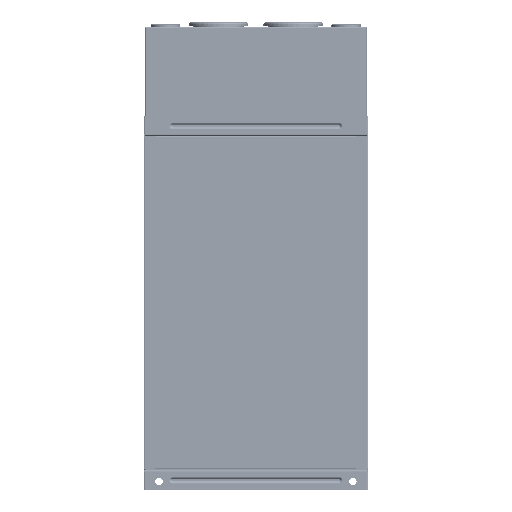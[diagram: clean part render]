
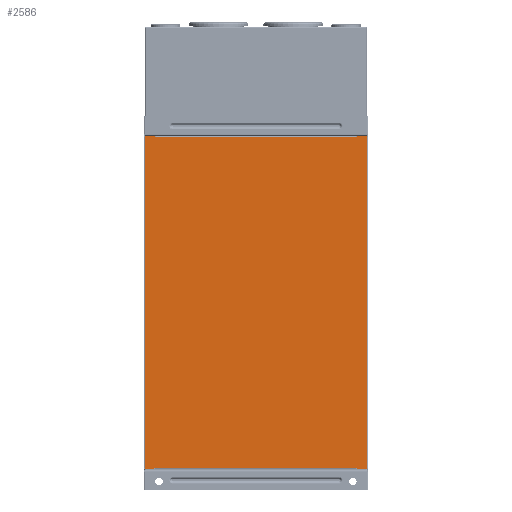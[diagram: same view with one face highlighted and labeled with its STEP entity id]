
A CAD part, front view. The second image highlights one B-rep face of the part: STEP entity #2586.
In plain terms, the highlighted planar face has unit normal (0, -1, 0).
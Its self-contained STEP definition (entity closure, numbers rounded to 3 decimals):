
#815=DIRECTION('',(0.,0.,-1.));
#816=VECTOR('',#815,1.6);
#817=CARTESIAN_POINT('',(-163.4,0.,0.));
#818=LINE('',#817,#816);
#823=DIRECTION('',(0.,0.,-1.));
#824=VECTOR('',#823,1.6);
#825=CARTESIAN_POINT('',(-149.4,0.,-488.8));
#826=LINE('',#825,#824);
#827=DIRECTION('',(-1.,0.,0.));
#828=VECTOR('',#827,14.);
#829=CARTESIAN_POINT('',(-149.4,0.,-490.4));
#830=LINE('',#829,#828);
#831=DIRECTION('',(1.,0.,0.));
#832=VECTOR('',#831,1.6);
#833=CARTESIAN_POINT('',(-148.3,0.,-1.6));
#834=LINE('',#833,#832);
#835=DIRECTION('',(1.,0.,0.));
#836=VECTOR('',#835,1.6);
#837=CARTESIAN_POINT('',(146.7,0.,-1.6));
#838=LINE('',#837,#836);
#839=DIRECTION('',(0.,0.,1.));
#840=VECTOR('',#839,1.6);
#841=CARTESIAN_POINT('',(148.3,0.,-1.6));
#842=LINE('',#841,#840);
#843=DIRECTION('',(0.,0.,-1.));
#844=VECTOR('',#843,1.6);
#845=CARTESIAN_POINT('',(163.4,0.,-488.8));
#846=LINE('',#845,#844);
#847=DIRECTION('',(-1.,0.,0.));
#848=VECTOR('',#847,14.);
#849=CARTESIAN_POINT('',(163.4,0.,-490.4));
#850=LINE('',#849,#848);
#851=DIRECTION('',(-1.,0.,0.));
#852=VECTOR('',#851,1.6);
#853=CARTESIAN_POINT('',(149.4,0.,-488.8));
#854=LINE('',#853,#852);
#855=DIRECTION('',(-1.,0.,0.));
#856=VECTOR('',#855,1.6);
#857=CARTESIAN_POINT('',(-147.8,0.,-488.8));
#858=LINE('',#857,#856);
#916=DIRECTION('',(1.,0.,0.));
#917=VECTOR('',#916,295.6);
#918=CARTESIAN_POINT('',(-147.8,0.,-488.8));
#919=LINE('',#918,#917);
#1013=DIRECTION('',(0.,0.,-1.));
#1014=VECTOR('',#1013,1.6);
#1015=CARTESIAN_POINT('',(149.4,0.,-488.8));
#1016=LINE('',#1015,#1014);
#1042=DIRECTION('',(0.,0.,1.));
#1043=VECTOR('',#1042,487.2);
#1044=CARTESIAN_POINT('',(163.4,0.,-488.8));
#1045=LINE('',#1044,#1043);
#1475=DIRECTION('',(0.,0.,1.));
#1476=VECTOR('',#1475,1.6);
#1477=CARTESIAN_POINT('',(163.4,0.,-1.6));
#1478=LINE('',#1477,#1476);
#1491=DIRECTION('',(-1.,0.,0.));
#1492=VECTOR('',#1491,15.1);
#1493=CARTESIAN_POINT('',(163.4,0.,0.));
#1494=LINE('',#1493,#1492);
#1520=DIRECTION('',(-1.,0.,0.));
#1521=VECTOR('',#1520,293.4);
#1522=CARTESIAN_POINT('',(146.7,0.,-1.6));
#1523=LINE('',#1522,#1521);
#1657=DIRECTION('',(0.,0.,1.));
#1658=VECTOR('',#1657,1.6);
#1659=CARTESIAN_POINT('',(-148.3,0.,-1.6));
#1660=LINE('',#1659,#1658);
#1665=DIRECTION('',(-1.,0.,0.));
#1666=VECTOR('',#1665,15.1);
#1667=CARTESIAN_POINT('',(-148.3,0.,0.));
#1668=LINE('',#1667,#1666);
#1978=DIRECTION('',(0.,0.,-1.));
#1979=VECTOR('',#1978,487.2);
#1980=CARTESIAN_POINT('',(-163.4,0.,-1.6));
#1981=LINE('',#1980,#1979);
#1982=DIRECTION('',(0.,0.,-1.));
#1983=VECTOR('',#1982,1.6);
#1984=CARTESIAN_POINT('',(-163.4,0.,-488.8));
#1985=LINE('',#1984,#1983);
#2062=CARTESIAN_POINT('',(-163.4,0.,-1.6));
#2063=VERTEX_POINT('',#2062);
#2064=CARTESIAN_POINT('',(-163.4,0.,0.));
#2065=VERTEX_POINT('',#2064);
#2068=CARTESIAN_POINT('',(-149.4,0.,-488.8));
#2069=CARTESIAN_POINT('',(-149.4,0.,-490.4));
#2070=VERTEX_POINT('',#2068);
#2071=VERTEX_POINT('',#2069);
#2072=CARTESIAN_POINT('',(-163.4,0.,-490.4));
#2073=VERTEX_POINT('',#2072);
#2074=CARTESIAN_POINT('',(-163.4,0.,-488.8));
#2075=VERTEX_POINT('',#2074);
#2076=CARTESIAN_POINT('',(-148.3,0.,0.));
#2077=VERTEX_POINT('',#2076);
#2078=CARTESIAN_POINT('',(-148.3,0.,-1.6));
#2079=VERTEX_POINT('',#2078);
#2080=CARTESIAN_POINT('',(-146.7,0.,-1.6));
#2081=VERTEX_POINT('',#2080);
#2082=CARTESIAN_POINT('',(146.7,0.,-1.6));
#2083=VERTEX_POINT('',#2082);
#2084=CARTESIAN_POINT('',(148.3,0.,-1.6));
#2085=VERTEX_POINT('',#2084);
#2086=CARTESIAN_POINT('',(148.3,0.,0.));
#2087=VERTEX_POINT('',#2086);
#2088=CARTESIAN_POINT('',(163.4,0.,0.));
#2089=VERTEX_POINT('',#2088);
#2090=CARTESIAN_POINT('',(163.4,0.,-1.6));
#2091=VERTEX_POINT('',#2090);
#2092=CARTESIAN_POINT('',(163.4,0.,-488.8));
#2093=VERTEX_POINT('',#2092);
#2094=CARTESIAN_POINT('',(163.4,0.,-490.4));
#2095=VERTEX_POINT('',#2094);
#2096=CARTESIAN_POINT('',(149.4,0.,-490.4));
#2097=VERTEX_POINT('',#2096);
#2098=CARTESIAN_POINT('',(149.4,0.,-488.8));
#2099=VERTEX_POINT('',#2098);
#2100=CARTESIAN_POINT('',(147.8,0.,-488.8));
#2101=VERTEX_POINT('',#2100);
#2102=CARTESIAN_POINT('',(-147.8,0.,-488.8));
#2103=VERTEX_POINT('',#2102);
#2540=CARTESIAN_POINT('',(-163.4,0.,0.));
#2541=DIRECTION('',(0.,-1.,0.));
#2542=DIRECTION('',(1.,0.,0.));
#2543=AXIS2_PLACEMENT_3D('',#2540,#2541,#2542);
#2544=PLANE('',#2543);
#2546=ORIENTED_EDGE('',*,*,#2545,.T.);
#2548=ORIENTED_EDGE('',*,*,#2547,.T.);
#2550=ORIENTED_EDGE('',*,*,#2549,.F.);
#2552=ORIENTED_EDGE('',*,*,#2551,.F.);
#2553=ORIENTED_EDGE('',*,*,#2530,.F.);
#2555=ORIENTED_EDGE('',*,*,#2554,.F.);
#2557=ORIENTED_EDGE('',*,*,#2556,.F.);
#2559=ORIENTED_EDGE('',*,*,#2558,.T.);
#2561=ORIENTED_EDGE('',*,*,#2560,.F.);
#2563=ORIENTED_EDGE('',*,*,#2562,.T.);
#2565=ORIENTED_EDGE('',*,*,#2564,.T.);
#2567=ORIENTED_EDGE('',*,*,#2566,.F.);
#2569=ORIENTED_EDGE('',*,*,#2568,.F.);
#2571=ORIENTED_EDGE('',*,*,#2570,.F.);
#2573=ORIENTED_EDGE('',*,*,#2572,.T.);
#2575=ORIENTED_EDGE('',*,*,#2574,.T.);
#2577=ORIENTED_EDGE('',*,*,#2576,.F.);
#2579=ORIENTED_EDGE('',*,*,#2578,.T.);
#2581=ORIENTED_EDGE('',*,*,#2580,.F.);
#2583=ORIENTED_EDGE('',*,*,#2582,.T.);
#2584=EDGE_LOOP('',(#2546,#2548,#2550,#2552,#2553,#2555,#2557,#2559,#2561,#2563,
#2565,#2567,#2569,#2571,#2573,#2575,#2577,#2579,#2581,#2583));
#2585=FACE_OUTER_BOUND('',#2584,.F.);
#2530=EDGE_CURVE('',#2065,#2063,#818,.T.);
#2545=EDGE_CURVE('',#2070,#2071,#826,.T.);
#2547=EDGE_CURVE('',#2071,#2073,#830,.T.);
#2549=EDGE_CURVE('',#2075,#2073,#1985,.T.);
#2551=EDGE_CURVE('',#2063,#2075,#1981,.T.);
#2554=EDGE_CURVE('',#2077,#2065,#1668,.T.);
#2556=EDGE_CURVE('',#2079,#2077,#1660,.T.);
#2558=EDGE_CURVE('',#2079,#2081,#834,.T.);
#2560=EDGE_CURVE('',#2083,#2081,#1523,.T.);
#2562=EDGE_CURVE('',#2083,#2085,#838,.T.);
#2564=EDGE_CURVE('',#2085,#2087,#842,.T.);
#2566=EDGE_CURVE('',#2089,#2087,#1494,.T.);
#2568=EDGE_CURVE('',#2091,#2089,#1478,.T.);
#2570=EDGE_CURVE('',#2093,#2091,#1045,.T.);
#2572=EDGE_CURVE('',#2093,#2095,#846,.T.);
#2574=EDGE_CURVE('',#2095,#2097,#850,.T.);
#2576=EDGE_CURVE('',#2099,#2097,#1016,.T.);
#2578=EDGE_CURVE('',#2099,#2101,#854,.T.);
#2580=EDGE_CURVE('',#2103,#2101,#919,.T.);
#2582=EDGE_CURVE('',#2103,#2070,#858,.T.);
#2586=ADVANCED_FACE('',(#2585),#2544,.T.);
